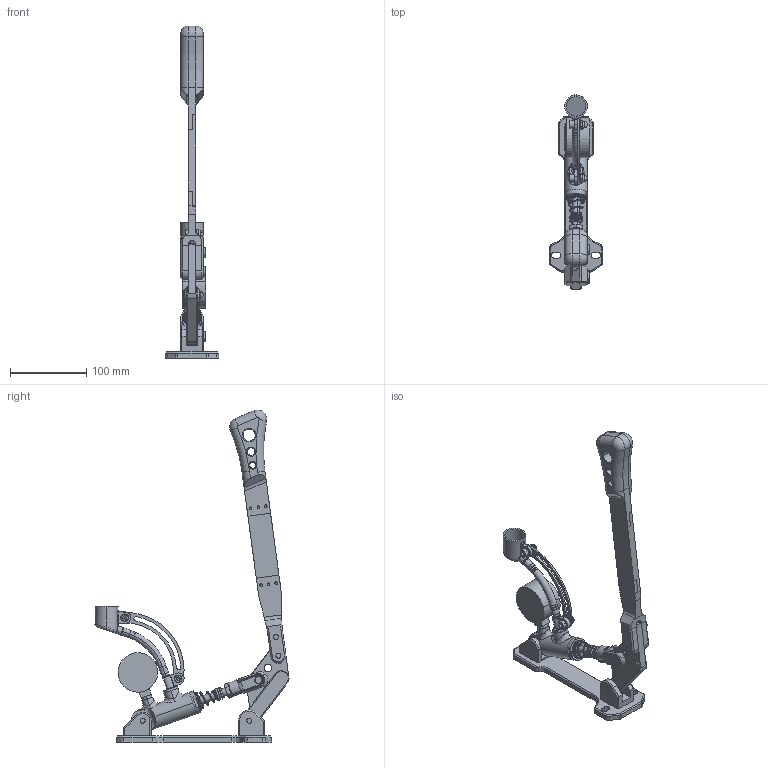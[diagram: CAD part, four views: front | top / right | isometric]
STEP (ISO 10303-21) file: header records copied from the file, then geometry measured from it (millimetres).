
FILE_DESCRIPTION(('CATIA V5 STEP Exchange','CAx-IF Rec.Pracs.--- Model Styling and Organization---1.4--- 2014-01-23','CAx-IF Rec.Pracs.---3D Tessellated Data Validation Properties---0.5---2014-09-14'),'2;1');
FILE_NAME('\\Nas_bts_indus\prod$\RESSOURCES\PROFS\CGM\2022 ressources jour J\Sujet\Assemblage\Frein à main Final\Frein a main.stp','2022-07-04T11:43:07+00:00',('none'),('none'),'CATIA Version 5-6 Release 2018 SP6','CATIA V5 STEP AP242','none');
FILE_SCHEMA(('AP242_MANAGED_MODEL_BASED_3D_ENGINEERING_MIM_LF {1 0 10303 442 1 1 4}'));
Length unit declared in the file: millimetre
Products named in the file (38): Frein a main; Embase; Renvoi levier; Master Cylinder; Body; Rotule; Bague ext rotule; Sphere int Rotule; 07331-201000-07331-201000; Rod; Piston; Chape; 07212-110-07212-110; Retainer; Wire lock; Piston guide; A09750491250S; Shim; Pressure Seal; O Ring; Piston Shaft Seal; Spring; Connection; Vase expansion; Embout durite; Clip vase; Bras vase; Manometre; Durite; 07160-06X10-07160-06X10; 07280-06-07280-06; 07160-08X25-07160-08X25; 07175-04X10-07175-04X10; Levier-Chape; Levier-Levier; Levier-Poignée; Entretoise; Axe chape
Assembly tree (48 placements, depth 4):
  Frein a main
    Embase
    Renvoi levier
    Master Cylinder
      Body
      Rotule
        Bague ext rotule
        Sphere int Rotule
      07331-201000-07331-201000
      Rod
      Piston
      Chape
      07212-110-07212-110
      Retainer
      Wire lock
      Piston guide
      A09750491250S
      Shim
      Pressure Seal
      O Ring
      Piston Shaft Seal
      Spring
      Connection
      Vase expansion
      Embout durite
      Clip vase
      Bras vase
      Manometre
      Durite
      07160-06X10-07160-06X10  x2
      07280-06-07280-06  x2
    07160-08X25-07160-08X25  x4
    07175-04X10-07175-04X10  x6
    Levier-Chape
    Levier-Levier
    Levier-Poignée
    Entretoise  x2
    Axe chape
Bounding box: 70 x 255.16 x 436.66 mm (x, y, z)
Volume: 451608.2 mm3; surface area: 164437.6 mm2
Topology: 47 solids, 48 shells, 2733 faces, 7115 edges, 4519 vertices
Faces by surface type: plane 1612, cylinder 556, cone 267, bspline 211, torus 71, sphere 12, revolution 4
Entity records: 94504 total; most frequent: CARTESIAN_POINT 35746, ORIENTED_EDGE 13092, DIRECTION 10072, EDGE_CURVE 6548, VECTOR 4635, LINE 4635, VERTEX_POINT 4197, AXIS2_PLACEMENT_3D 3372
